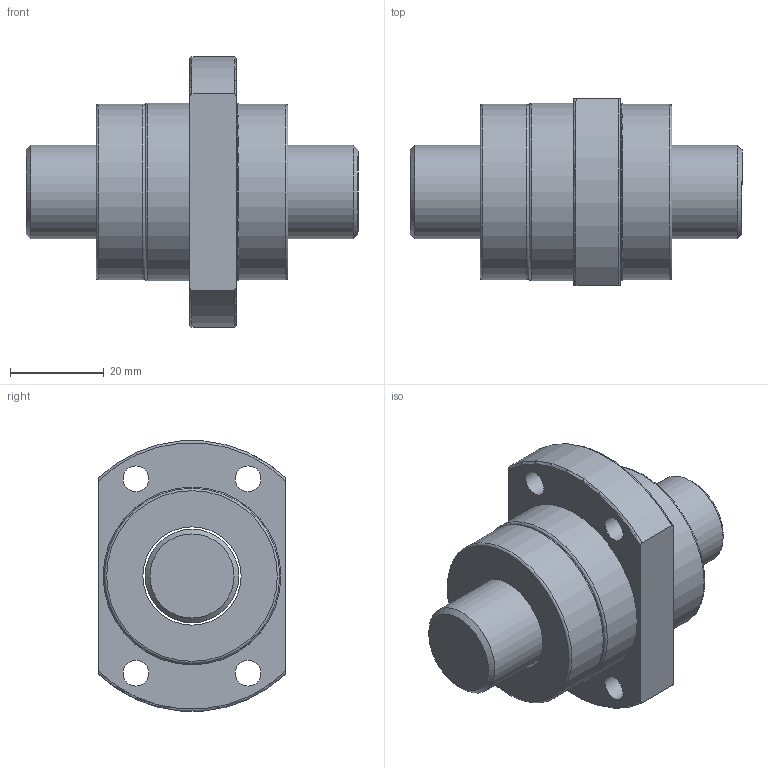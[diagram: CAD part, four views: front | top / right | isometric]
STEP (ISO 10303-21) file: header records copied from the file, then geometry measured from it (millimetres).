
FILE_DESCRIPTION(/* description */ (''),/* implementation_level */ '2;1');
FILE_NAME(/* name */ 'SFE2040',/* time_stamp */ '2007-10-26T11:57:05+08:00',/* author */ (''),/* organization */ (''),/* preprocessor_version */ 'ST-DEVELOPER v9',/* originating_system */ 'EDS PLM SOLUTIONS - UNIGRAPHICS NX 1.0',/* authorisation */ '');
FILE_SCHEMA (('CONFIG_CONTROL_DESIGN'));
Length unit declared in the file: millimetre
Products named in the file (1): FANNDA0400g2
Bounding box: 71 x 40 x 57.79 mm (x, y, z)
Volume: 62793 mm3; surface area: 20038.9 mm2
Topology: 4 solids, 4 shells, 37 faces, 78 edges, 51 vertices
Faces by surface type: cylinder 14, plane 12, torus 9, cone 2
Full cylindrical faces by diameter (mm): 5.5 x4, 20 x1, 21 x3, 37.5 x2, 38 x2
Entity records: 1100 total; most frequent: CARTESIAN_POINT 272, DIRECTION 162, ORIENTED_EDGE 110, AXIS2_PLACEMENT_3D 77, EDGE_LOOP 72, EDGE_CURVE 55, FACE_BOUND 52, VERTEX_POINT 47
